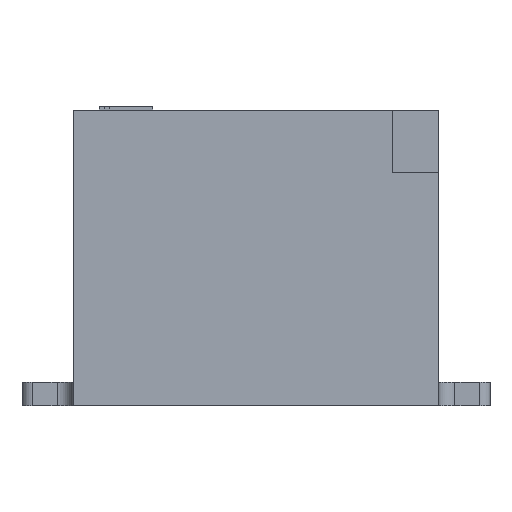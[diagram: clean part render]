
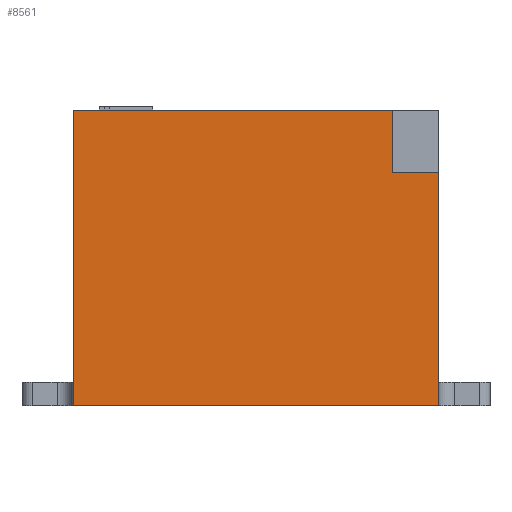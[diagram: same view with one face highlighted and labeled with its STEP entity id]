
A CAD part, left-side view. The second image highlights one B-rep face of the part: STEP entity #8561.
In plain terms, the highlighted planar face has unit normal (-1, 0, 0).
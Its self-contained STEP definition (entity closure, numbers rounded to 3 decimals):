
#197=DIRECTION('',(0.,-1.,0.));
#198=VECTOR('',#197,47.);
#199=CARTESIAN_POINT('',(0.,23.5,0.));
#200=LINE('',#199,#198);
#429=DIRECTION('',(0.,0.,1.));
#430=VECTOR('',#429,30.);
#431=CARTESIAN_POINT('',(0.,-23.5,0.));
#432=LINE('',#431,#430);
#453=DIRECTION('',(0.,-1.,0.));
#454=VECTOR('',#453,41.);
#455=CARTESIAN_POINT('',(0.,23.5,38.));
#456=LINE('',#455,#454);
#2081=DIRECTION('',(0.,0.,-1.));
#2082=VECTOR('',#2081,8.);
#2083=CARTESIAN_POINT('',(0.,-17.5,38.));
#2084=LINE('',#2083,#2082);
#2085=DIRECTION('',(0.,1.,0.));
#2086=VECTOR('',#2085,6.);
#2087=CARTESIAN_POINT('',(0.,-23.5,30.));
#2088=LINE('',#2087,#2086);
#2089=DIRECTION('',(0.,0.,1.));
#2090=VECTOR('',#2089,38.);
#2091=CARTESIAN_POINT('',(0.,23.5,0.));
#2092=LINE('',#2091,#2090);
#5433=CARTESIAN_POINT('',(0.,23.5,0.));
#5434=CARTESIAN_POINT('',(0.,-23.5,0.));
#5435=VERTEX_POINT('',#5433);
#5436=VERTEX_POINT('',#5434);
#5445=CARTESIAN_POINT('',(0.,23.5,38.));
#5446=VERTEX_POINT('',#5445);
#5611=CARTESIAN_POINT('',(0.,-17.5,38.));
#5612=VERTEX_POINT('',#5611);
#5613=CARTESIAN_POINT('',(0.,-17.5,30.));
#5614=VERTEX_POINT('',#5613);
#5615=CARTESIAN_POINT('',(0.,-23.5,30.));
#5616=VERTEX_POINT('',#5615);
#8547=CARTESIAN_POINT('',(0.,23.5,0.));
#8548=DIRECTION('',(-1.,0.,0.));
#8549=DIRECTION('',(0.,-1.,0.));
#8550=AXIS2_PLACEMENT_3D('',#8547,#8548,#8549);
#8551=PLANE('',#8550);
#8552=ORIENTED_EDGE('',*,*,#8529,.T.);
#8553=ORIENTED_EDGE('',*,*,#8539,.F.);
#8554=ORIENTED_EDGE('',*,*,#7590,.F.);
#8555=ORIENTED_EDGE('',*,*,#7300,.F.);
#8557=ORIENTED_EDGE('',*,*,#8556,.T.);
#8558=ORIENTED_EDGE('',*,*,#7620,.T.);
#8559=EDGE_LOOP('',(#8552,#8553,#8554,#8555,#8557,#8558));
#8560=FACE_OUTER_BOUND('',#8559,.F.);
#8561=ADVANCED_FACE('',(#8560),#8551,.T.);
#7300=EDGE_CURVE('',#5435,#5436,#200,.T.);
#7590=EDGE_CURVE('',#5436,#5616,#432,.T.);
#7620=EDGE_CURVE('',#5446,#5612,#456,.T.);
#8529=EDGE_CURVE('',#5612,#5614,#2084,.T.);
#8539=EDGE_CURVE('',#5616,#5614,#2088,.T.);
#8556=EDGE_CURVE('',#5435,#5446,#2092,.T.);
